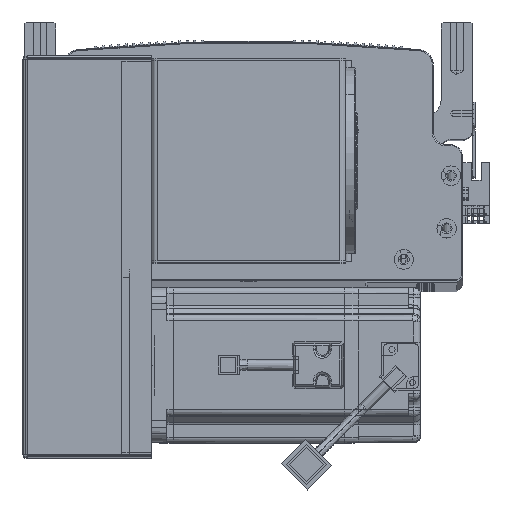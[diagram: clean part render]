
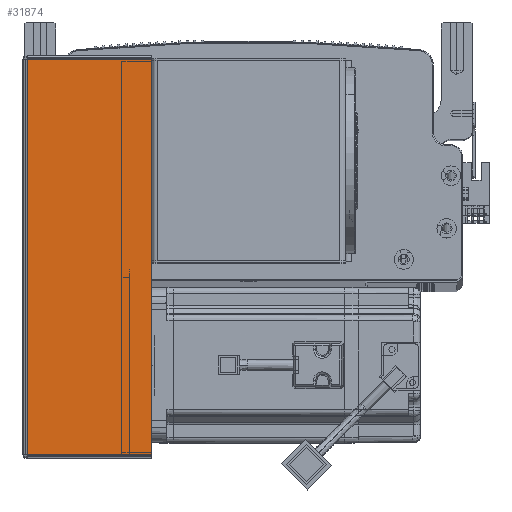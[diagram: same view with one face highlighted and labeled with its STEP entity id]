
A CAD part, top view. The second image highlights one B-rep face of the part: STEP entity #31874.
In plain terms, the highlighted planar face has unit normal (0, 0, 1) as drawn and (0, -1, 0) by its records, which use the part's own axes.
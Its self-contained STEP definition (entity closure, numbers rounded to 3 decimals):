
#2892 = VERTEX_POINT ( 'NONE', #84143 ) ;
#4434 = LINE ( 'NONE', #36754, #52238 ) ;
#8757 = CARTESIAN_POINT ( 'NONE',  ( 0., -1.5, -0.707 ) ) ;
#11581 = PLANE ( 'NONE',  #72695 ) ;
#15174 = DIRECTION ( 'NONE',  ( -1., 0., 0. ) ) ;
#22138 = DIRECTION ( 'NONE',  ( 0., 0., 1. ) ) ;
#28738 = LINE ( 'NONE', #8757, #53119 ) ;
#28943 = CARTESIAN_POINT ( 'NONE',  ( 0., -1.5, -203.293 ) ) ;
#31249 = DIRECTION ( 'NONE',  ( 1., 0., 0. ) ) ;
#31874 = ADVANCED_FACE ( 'NONE', ( #89025 ), #11581, .F. ) ;
#32827 = LINE ( 'NONE', #28943, #59506 ) ;
#36754 = CARTESIAN_POINT ( 'NONE',  ( 0.737, -1.5, 0. ) ) ;
#41377 = CARTESIAN_POINT ( 'NONE',  ( 64.5, -1.5, -203.293 ) ) ;
#42546 = ORIENTED_EDGE ( 'NONE', *, *, #47900, .F. ) ;
#47900 = EDGE_CURVE ( 'NONE', #52063, #72633, #4434, .T. ) ;
#51588 = ORIENTED_EDGE ( 'NONE', *, *, #80280, .T. ) ;
#52063 = VERTEX_POINT ( 'NONE', #95772 ) ;
#52238 = VECTOR ( 'NONE', #22138, 1000. ) ;
#53119 = VECTOR ( 'NONE', #31249, 1000. ) ;
#56409 = ORIENTED_EDGE ( 'NONE', *, *, #95990, .T. ) ;
#58506 = ORIENTED_EDGE ( 'NONE', *, *, #63564, .F. ) ;
#59080 = DIRECTION ( 'NONE',  ( 1., 0., 0. ) ) ;
#59506 = VECTOR ( 'NONE', #59080, 1000. ) ;
#63564 = EDGE_CURVE ( 'NONE', #72633, #2892, #28738, .T. ) ;
#66517 = VECTOR ( 'NONE', #74746, 1000. ) ;
#66734 = CARTESIAN_POINT ( 'NONE',  ( 0.737, -1.5, -0.707 ) ) ;
#71124 = CARTESIAN_POINT ( 'NONE',  ( 0., -1.5, 0. ) ) ;
#72633 = VERTEX_POINT ( 'NONE', #66734 ) ;
#72695 = AXIS2_PLACEMENT_3D ( 'NONE', #71124, #81526, #15174 ) ;
#74746 = DIRECTION ( 'NONE',  ( 0., 0., 1. ) ) ;
#80280 = EDGE_CURVE ( 'NONE', #52063, #93377, #32827, .T. ) ;
#80294 = EDGE_LOOP ( 'NONE', ( #42546, #51588, #56409, #58506 ) ) ;
#81206 = CARTESIAN_POINT ( 'NONE',  ( 64.5, -1.5, 0. ) ) ;
#81526 = DIRECTION ( 'NONE',  ( 0., 1., 0. ) ) ;
#84143 = CARTESIAN_POINT ( 'NONE',  ( 64.5, -1.5, -0.707 ) ) ;
#86298 = LINE ( 'NONE', #81206, #66517 ) ;
#89025 = FACE_OUTER_BOUND ( 'NONE', #80294, .T. ) ;
#93377 = VERTEX_POINT ( 'NONE', #41377 ) ;
#95772 = CARTESIAN_POINT ( 'NONE',  ( 0.737, -1.5, -203.293 ) ) ;
#95990 = EDGE_CURVE ( 'NONE', #93377, #2892, #86298, .T. ) ;
